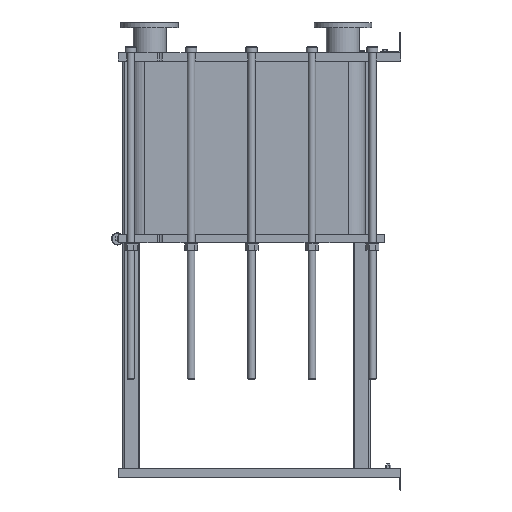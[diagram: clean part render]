
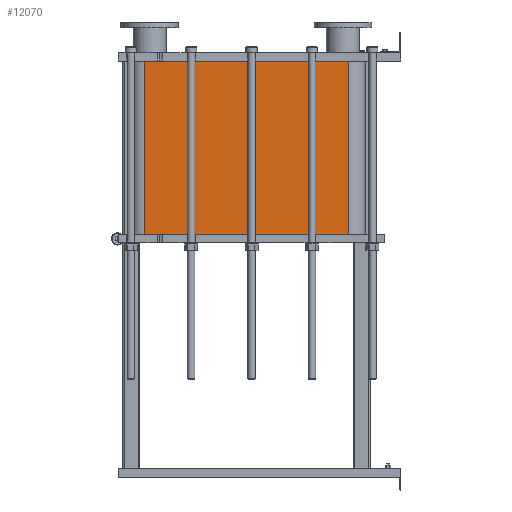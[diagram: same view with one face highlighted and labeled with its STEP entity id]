
A CAD part, left-side view. The second image highlights one B-rep face of the part: STEP entity #12070.
In plain terms, the highlighted planar face has unit normal (-1, 0, 0).
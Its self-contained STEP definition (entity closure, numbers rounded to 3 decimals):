
#1064=LINE('',#21140,#2164);
#1065=LINE('',#21144,#2165);
#1066=LINE('',#21146,#2166);
#1067=LINE('',#21147,#2167);
#2164=VECTOR('',#15790,10.);
#2165=VECTOR('',#15795,10.);
#2166=VECTOR('',#15796,10.);
#2167=VECTOR('',#15797,10.);
#3304=FACE_OUTER_BOUND('',#4091,.T.);
#4091=EDGE_LOOP('',(#9793,#9794,#9795,#9796));
#5677=VERTEX_POINT('',#21137);
#5678=VERTEX_POINT('',#21139);
#5679=VERTEX_POINT('',#21143);
#5680=VERTEX_POINT('',#21145);
#7118=EDGE_CURVE('',#5678,#5677,#1064,.T.);
#7120=EDGE_CURVE('',#5677,#5679,#1065,.T.);
#7121=EDGE_CURVE('',#5680,#5679,#1066,.T.);
#7122=EDGE_CURVE('',#5680,#5678,#1067,.T.);
#9793=ORIENTED_EDGE('',*,*,#7120,.T.);
#9794=ORIENTED_EDGE('',*,*,#7121,.F.);
#9795=ORIENTED_EDGE('',*,*,#7122,.T.);
#9796=ORIENTED_EDGE('',*,*,#7118,.T.);
#11441=PLANE('',#13191);
#12070=ADVANCED_FACE('',(#3304),#11441,.T.);
#13191=AXIS2_PLACEMENT_3D('',#21142,#15793,#15794);
#15790=DIRECTION('',(0.,0.,-1.));
#15793=DIRECTION('center_axis',(-1.,0.,0.));
#15794=DIRECTION('ref_axis',(0.,1.,0.));
#15795=DIRECTION('',(0.,-1.,0.));
#15796=DIRECTION('',(0.,0.,-1.));
#15797=DIRECTION('',(0.,1.,0.));
#21137=CARTESIAN_POINT('',(-248.152,1243.818,-845.25));
#21139=CARTESIAN_POINT('',(-248.152,1243.818,0.));
#21140=CARTESIAN_POINT('',(-248.152,1243.818,0.));
#21142=CARTESIAN_POINT('Origin',(-248.152,251.818,0.));
#21143=CARTESIAN_POINT('',(-248.152,251.818,-845.25));
#21144=CARTESIAN_POINT('',(-248.152,499.818,-845.25));
#21145=CARTESIAN_POINT('',(-248.152,251.818,0.));
#21146=CARTESIAN_POINT('',(-248.152,251.818,0.));
#21147=CARTESIAN_POINT('',(-248.152,251.818,0.));
